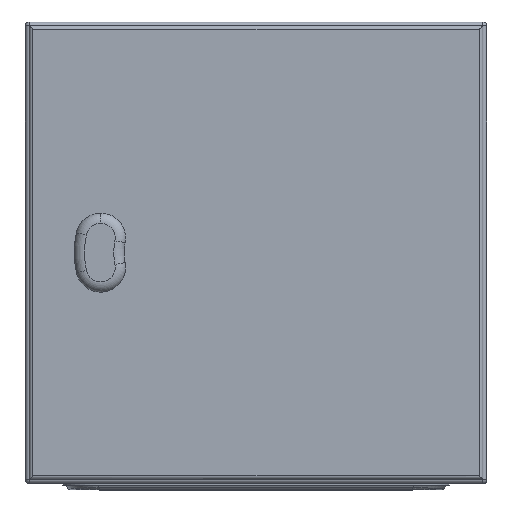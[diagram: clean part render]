
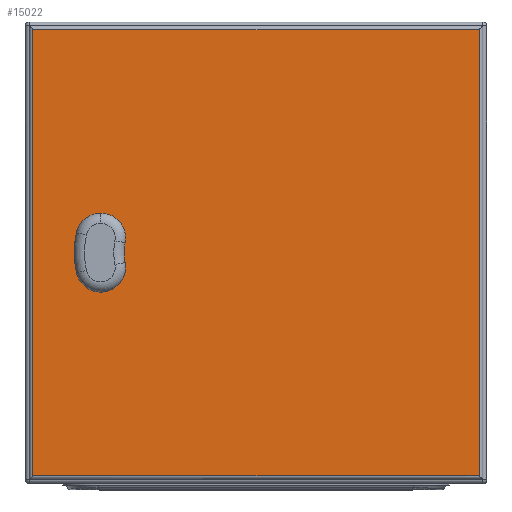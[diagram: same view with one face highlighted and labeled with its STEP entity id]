
A CAD part, top view. The second image highlights one B-rep face of the part: STEP entity #15022.
In plain terms, the highlighted planar face has unit normal (0, 0, 1) as drawn and (0, 0, -1) by its records, which use the part's own axes.
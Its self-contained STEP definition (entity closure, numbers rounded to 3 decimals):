
#381 = CARTESIAN_POINT ( 'NONE',  ( 101., 0., 0. ) ) ;
#578 = VECTOR ( 'NONE', #5747, 1000. ) ;
#615 = CARTESIAN_POINT ( 'NONE',  ( 106.056, 10.05, 0. ) ) ;
#1238 = CARTESIAN_POINT ( 'NONE',  ( 101., 0., 0. ) ) ;
#1316 = DIRECTION ( 'NONE',  ( 0., 1., 0. ) ) ;
#1554 = AXIS2_PLACEMENT_3D ( 'NONE', #17255, #2810, #13678 ) ;
#1709 = PLANE ( 'NONE',  #17291 ) ;
#2132 = ORIENTED_EDGE ( 'NONE', *, *, #14887, .T. ) ;
#2174 = ORIENTED_EDGE ( 'NONE', *, *, #6904, .F. ) ;
#2339 = EDGE_CURVE ( 'NONE', #9424, #18774, #18855, .T. ) ;
#2605 = LINE ( 'NONE', #13775, #19019 ) ;
#2722 = AXIS2_PLACEMENT_3D ( 'NONE', #381, #14950, #19203 ) ;
#2810 = DIRECTION ( 'NONE',  ( 0., 0., -1. ) ) ;
#3003 = CARTESIAN_POINT ( 'NONE',  ( 90.95, -5.056, 0. ) ) ;
#3048 = CARTESIAN_POINT ( 'NONE',  ( 111.05, -5.056, 0. ) ) ;
#3230 = CARTESIAN_POINT ( 'NONE',  ( 90.95, 5.056, 0. ) ) ;
#3560 = VECTOR ( 'NONE', #8716, 1000. ) ;
#3775 = CARTESIAN_POINT ( 'NONE',  ( 106.056, -10.05, 0. ) ) ;
#3803 = VECTOR ( 'NONE', #5371, 1000. ) ;
#3944 = EDGE_LOOP ( 'NONE', ( #13358, #6192, #2132, #20521 ) ) ;
#4035 = ORIENTED_EDGE ( 'NONE', *, *, #18330, .F. ) ;
#4130 = VERTEX_POINT ( 'NONE', #6514 ) ;
#4335 = EDGE_CURVE ( 'NONE', #11949, #4130, #6807, .T. ) ;
#4442 = VERTEX_POINT ( 'NONE', #20539 ) ;
#4595 = CARTESIAN_POINT ( 'NONE',  ( -147.5, -145., 0. ) ) ;
#4871 = CARTESIAN_POINT ( 'NONE',  ( 95.944, 10.05, 0. ) ) ;
#4929 = CARTESIAN_POINT ( 'NONE',  ( -145., -145., 0. ) ) ;
#5371 = DIRECTION ( 'NONE',  ( 0., -1., 0. ) ) ;
#5450 = AXIS2_PLACEMENT_3D ( 'NONE', #1238, #18636, #12193 ) ;
#5551 = DIRECTION ( 'NONE',  ( 1., 0., 0. ) ) ;
#5706 = ORIENTED_EDGE ( 'NONE', *, *, #10525, .F. ) ;
#5747 = DIRECTION ( 'NONE',  ( -1., 0., 0. ) ) ;
#5837 = DIRECTION ( 'NONE',  ( 0., -1., 0. ) ) ;
#5875 = ORIENTED_EDGE ( 'NONE', *, *, #4335, .F. ) ;
#6192 = ORIENTED_EDGE ( 'NONE', *, *, #15611, .T. ) ;
#6514 = CARTESIAN_POINT ( 'NONE',  ( 111.05, 5.056, 0. ) ) ;
#6613 = VERTEX_POINT ( 'NONE', #8492 ) ;
#6807 = CIRCLE ( 'NONE', #5450, 11.25 ) ;
#6904 = EDGE_CURVE ( 'NONE', #6613, #9424, #9232, .T. ) ;
#6954 = CARTESIAN_POINT ( 'NONE',  ( -145., 147.5, 0. ) ) ;
#7025 = CARTESIAN_POINT ( 'NONE',  ( 106.056, 10.05, 0. ) ) ;
#7138 = DIRECTION ( 'NONE',  ( 1., 0., 0. ) ) ;
#7824 = CARTESIAN_POINT ( 'NONE',  ( 145., -147.5, 0. ) ) ;
#7839 = EDGE_CURVE ( 'NONE', #19163, #13353, #19684, .T. ) ;
#7862 = VECTOR ( 'NONE', #5837, 1000. ) ;
#7905 = VERTEX_POINT ( 'NONE', #15053 ) ;
#8454 = ORIENTED_EDGE ( 'NONE', *, *, #15418, .F. ) ;
#8492 = CARTESIAN_POINT ( 'NONE',  ( 90.95, -5.056, 0. ) ) ;
#8716 = DIRECTION ( 'NONE',  ( -1., 0., 0. ) ) ;
#9074 = VERTEX_POINT ( 'NONE', #4929 ) ;
#9232 = LINE ( 'NONE', #3003, #16443 ) ;
#9363 = EDGE_LOOP ( 'NONE', ( #5706, #15623, #8454, #13159, #5875, #4035, #17120, #2174 ) ) ;
#9424 = VERTEX_POINT ( 'NONE', #3230 ) ;
#9834 = FACE_BOUND ( 'NONE', #9363, .T. ) ;
#10042 = CARTESIAN_POINT ( 'NONE',  ( -145., 145., 0. ) ) ;
#10525 = EDGE_CURVE ( 'NONE', #13353, #6613, #10980, .T. ) ;
#10980 = CIRCLE ( 'NONE', #1554, 11.25 ) ;
#11102 = DIRECTION ( 'NONE',  ( 0., 0., -1. ) ) ;
#11575 = DIRECTION ( 'NONE',  ( 0., 0., -1. ) ) ;
#11892 = VECTOR ( 'NONE', #7138, 1000. ) ;
#11949 = VERTEX_POINT ( 'NONE', #7025 ) ;
#12161 = EDGE_CURVE ( 'NONE', #4442, #9074, #15662, .T. ) ;
#12193 = DIRECTION ( 'NONE',  ( 1., 0., 0. ) ) ;
#13074 = VERTEX_POINT ( 'NONE', #3048 ) ;
#13159 = ORIENTED_EDGE ( 'NONE', *, *, #17965, .F. ) ;
#13227 = EDGE_CURVE ( 'NONE', #9074, #18865, #18617, .T. ) ;
#13234 = CARTESIAN_POINT ( 'NONE',  ( 106.056, -10.05, 0. ) ) ;
#13353 = VERTEX_POINT ( 'NONE', #19712 ) ;
#13358 = ORIENTED_EDGE ( 'NONE', *, *, #13227, .T. ) ;
#13678 = DIRECTION ( 'NONE',  ( -1., 0., 0. ) ) ;
#13775 = CARTESIAN_POINT ( 'NONE',  ( 147.5, 145., 0. ) ) ;
#14524 = DIRECTION ( 'NONE',  ( -1., 0., 0. ) ) ;
#14620 = VECTOR ( 'NONE', #18137, 1000. ) ;
#14887 = EDGE_CURVE ( 'NONE', #7905, #4442, #15650, .T. ) ;
#14950 = DIRECTION ( 'NONE',  ( 0., 0., -1. ) ) ;
#14960 = LINE ( 'NONE', #615, #11892 ) ;
#14989 = AXIS2_PLACEMENT_3D ( 'NONE', #19391, #11575, #14524 ) ;
#15022 = ADVANCED_FACE ( 'NONE', ( #9834, #19221 ), #1709, .T. ) ;
#15053 = CARTESIAN_POINT ( 'NONE',  ( 145., 145., 0. ) ) ;
#15094 = LINE ( 'NONE', #18353, #3803 ) ;
#15418 = EDGE_CURVE ( 'NONE', #13074, #19163, #20718, .T. ) ;
#15611 = EDGE_CURVE ( 'NONE', #18865, #7905, #2605, .T. ) ;
#15623 = ORIENTED_EDGE ( 'NONE', *, *, #7839, .F. ) ;
#15650 = LINE ( 'NONE', #7824, #7862 ) ;
#15662 = LINE ( 'NONE', #4595, #578 ) ;
#16443 = VECTOR ( 'NONE', #1316, 1000. ) ;
#17120 = ORIENTED_EDGE ( 'NONE', *, *, #2339, .F. ) ;
#17255 = CARTESIAN_POINT ( 'NONE',  ( 101., 0., 0. ) ) ;
#17291 = AXIS2_PLACEMENT_3D ( 'NONE', #17951, #11102, #20720 ) ;
#17951 = CARTESIAN_POINT ( 'NONE',  ( 147.5, 147.5, 0. ) ) ;
#17965 = EDGE_CURVE ( 'NONE', #4130, #13074, #15094, .T. ) ;
#18137 = DIRECTION ( 'NONE',  ( 0., 1., 0. ) ) ;
#18330 = EDGE_CURVE ( 'NONE', #18774, #11949, #14960, .T. ) ;
#18353 = CARTESIAN_POINT ( 'NONE',  ( 111.05, -5.056, 0. ) ) ;
#18617 = LINE ( 'NONE', #6954, #14620 ) ;
#18636 = DIRECTION ( 'NONE',  ( 0., 0., -1. ) ) ;
#18774 = VERTEX_POINT ( 'NONE', #4871 ) ;
#18855 = CIRCLE ( 'NONE', #2722, 11.25 ) ;
#18865 = VERTEX_POINT ( 'NONE', #10042 ) ;
#19019 = VECTOR ( 'NONE', #5551, 1000. ) ;
#19163 = VERTEX_POINT ( 'NONE', #3775 ) ;
#19203 = DIRECTION ( 'NONE',  ( 1., 0., 0. ) ) ;
#19221 = FACE_OUTER_BOUND ( 'NONE', #3944, .T. ) ;
#19391 = CARTESIAN_POINT ( 'NONE',  ( 101., 0., 0. ) ) ;
#19684 = LINE ( 'NONE', #13234, #3560 ) ;
#19712 = CARTESIAN_POINT ( 'NONE',  ( 95.944, -10.05, 0. ) ) ;
#20521 = ORIENTED_EDGE ( 'NONE', *, *, #12161, .T. ) ;
#20539 = CARTESIAN_POINT ( 'NONE',  ( 145., -145., 0. ) ) ;
#20718 = CIRCLE ( 'NONE', #14989, 11.25 ) ;
#20720 = DIRECTION ( 'NONE',  ( -1., 0., 0. ) ) ;
